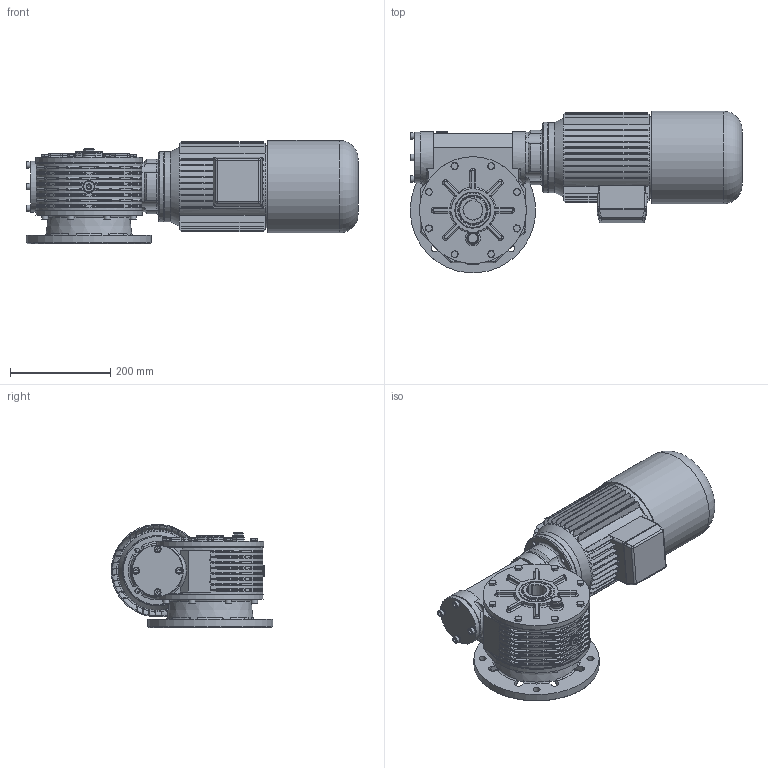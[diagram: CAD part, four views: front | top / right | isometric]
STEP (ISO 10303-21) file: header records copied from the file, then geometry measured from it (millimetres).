
FILE_DESCRIPTION((''),'2;1');
FILE_NAME('Y:\Archivi Inventor\Prog_01\GRAND_50\complessivi\Figurini\MRV50 sito\90l_autofrenante\mrv50_F1_90L_B14.stp','2013-02-08T10:24:31',('tech3'),(''),'Autodesk Inventor 2013','Autodesk Inventor 2013','');
FILE_SCHEMA(('AUTOMOTIVE_DESIGN { 1 0 10303 214 1 1 1 1 }'));
Length unit declared in the file: millimetre
Products named in the file (20): mrv50_90s_90l_b14; mrv50_fig; Figurino_carcassa_MRV50; 0105028; 0105029; figurino_corona_MRV50; Guarnizione 3_8 GAS; Tappo 3_8 GAS_esagn_incsst; figurino_0105009; ISO 4017 M8 x 20; 55_70_8; fig_0105002; figurino_0105003; ISO 4762 M8 x 16; Tappo3_8 GAS; UNI 6592 8.4 x 14; UNI 5931  M 8 x  25; 0105006; DIN EN ISO 4762 M8 x 25; motori B14 brake 90L
Assembly tree (48 placements, depth 3):
  mrv50_90s_90l_b14
    mrv50_fig
      Figurino_carcassa_MRV50
      0105028  x2
      0105029  x2
      figurino_corona_MRV50
      Guarnizione 3_8 GAS  x3
      Tappo 3_8 GAS_esagn_incsst  x2
      figurino_0105009
      ISO 4017 M8 x 20  x8
      55_70_8  x2
      fig_0105002
      figurino_0105003
      ISO 4762 M8 x 16  x8
      Tappo3_8 GAS
      UNI 6592 8.4 x 14  x4
      UNI 5931  M 8 x  25  x4
    0105006
    DIN EN ISO 4762 M8 x 25  x4
    motori B14 brake 90L
Bounding box: 661.8 x 321.71 x 205.53 mm (x, y, z)
Volume: 11026644.8 mm3; surface area: 1388495.6 mm2
Topology: 60 solids, 66 shells, 2140 faces, 5216 edges, 3130 vertices
Faces by surface type: plane 932, cylinder 614, torus 203, cone 201, bspline 156, sphere 34
Full cylindrical faces by diameter (mm): 2 x2, 5 x1, 6.647 x28, 8 x26, 8.4 x4, 8.5 x48, 9 x4, 11.63 x8, 13 x20, 13.046 x1, 14 x12, 14.95 x3, 16.3 x3, 16.5 x2, 22 x6, 24 x3, 55 x1, 60 x1, 66.4 x2, 69 x2, 70 x6, 72 x4, 73 x2, 75 x1, 80 x1, 90 x1, 95 x1, 99.5 x2, 101 x1, 102 x2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
Entity records: 59147 total; most frequent: CARTESIAN_POINT 19164, DIRECTION 8230, ORIENTED_EDGE 7718, EDGE_CURVE 3859, AXIS2_PLACEMENT_3D 3272, VERTEX_POINT 2496, EDGE_LOOP 2117, FACE_OUTER_BOUND 1702
